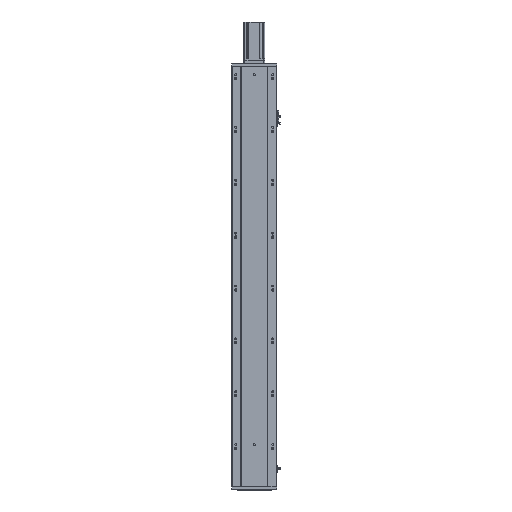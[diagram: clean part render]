
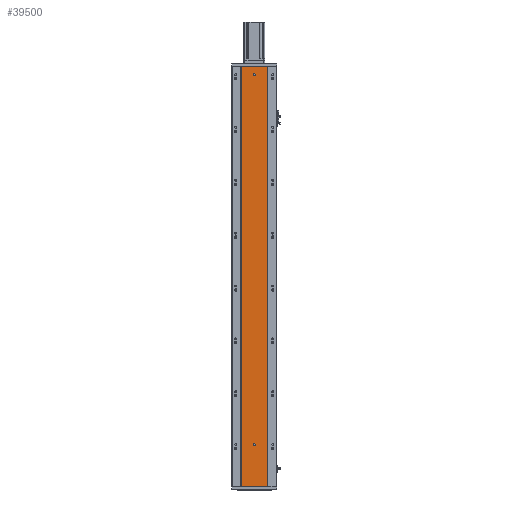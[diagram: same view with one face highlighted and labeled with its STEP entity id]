
A CAD part, front view. The second image highlights one B-rep face of the part: STEP entity #39500.
In plain terms, the highlighted planar face has unit normal (0, -1, 0).
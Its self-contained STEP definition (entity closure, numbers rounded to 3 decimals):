
#2220 = EDGE_LOOP ( 'NONE', ( #9509, #9532, #9431, #9542 ) ) ;
#2242 = EDGE_LOOP ( 'NONE', ( #9483, #9523 ) ) ;
#2290 = EDGE_LOOP ( 'NONE', ( #9445, #9434 ) ) ;
#2430 = LINE ( 'NONE', #4441, #2496 ) ;
#2496 = VECTOR ( 'NONE', #4465, 1000. ) ;
#2520 = CIRCLE ( 'NONE', #22075, 4. ) ;
#2554 = VECTOR ( 'NONE', #4608, 1000. ) ;
#2582 = LINE ( 'NONE', #4583, #2554 ) ;
#2843 = CIRCLE ( 'NONE', #22132, 4. ) ;
#4441 = CARTESIAN_POINT ( 'NONE',  ( 0., 79.476, 1590. ) ) ;
#4465 = DIRECTION ( 'NONE',  ( 1., 0., 0. ) ) ;
#4489 = DIRECTION ( 'NONE',  ( 0., -1., 0. ) ) ;
#4494 = DIRECTION ( 'NONE',  ( 0., 0., -1. ) ) ;
#4507 = CARTESIAN_POINT ( 'NONE',  ( 136.47, 79.476, 1560. ) ) ;
#4534 = CARTESIAN_POINT ( 'NONE',  ( 185.97, 79.476, 1590. ) ) ;
#4536 = CARTESIAN_POINT ( 'NONE',  ( 185.97, 79.476, 530. ) ) ;
#4537 = CARTESIAN_POINT ( 'NONE',  ( 185.97, 79.476, 0. ) ) ;
#4547 = CARTESIAN_POINT ( 'NONE',  ( 185.97, 79.476, 1060. ) ) ;
#4583 = CARTESIAN_POINT ( 'NONE',  ( 0., 79.476, 0. ) ) ;
#4585 = CARTESIAN_POINT ( 'NONE',  ( 86.97, 79.476, 1590. ) ) ;
#4591 = CARTESIAN_POINT ( 'NONE',  ( 86.97, 79.476, 530. ) ) ;
#4592 = CARTESIAN_POINT ( 'NONE',  ( 86.97, 79.476, 0. ) ) ;
#4604 = CARTESIAN_POINT ( 'NONE',  ( 86.97, 79.476, 1060. ) ) ;
#4608 = DIRECTION ( 'NONE',  ( 1., 0., 0. ) ) ;
#4776 = CARTESIAN_POINT ( 'NONE',  ( 136.47, 79.476, 160. ) ) ;
#4777 = DIRECTION ( 'NONE',  ( 0., -1., 0. ) ) ;
#4778 = DIRECTION ( 'NONE',  ( 0., 0., -1. ) ) ;
#8639 = VERTEX_POINT ( 'NONE', #18935 ) ;
#8696 = VERTEX_POINT ( 'NONE', #19042 ) ;
#8733 = VERTEX_POINT ( 'NONE', #19073 ) ;
#8757 = VERTEX_POINT ( 'NONE', #19079 ) ;
#9431 = ORIENTED_EDGE ( 'NONE', *, *, #30990, .F. ) ;
#9434 = ORIENTED_EDGE ( 'NONE', *, *, #41480, .F. ) ;
#9445 = ORIENTED_EDGE ( 'NONE', *, *, #31110, .F. ) ;
#9483 = ORIENTED_EDGE ( 'NONE', *, *, #31006, .F. ) ;
#9509 = ORIENTED_EDGE ( 'NONE', *, *, #31030, .T. ) ;
#9523 = ORIENTED_EDGE ( 'NONE', *, *, #41464, .F. ) ;
#9532 = ORIENTED_EDGE ( 'NONE', *, *, #31021, .F. ) ;
#9542 = ORIENTED_EDGE ( 'NONE', *, *, #31043, .T. ) ;
#11080 = CARTESIAN_POINT ( 'NONE',  ( 185.97, 79.476, 1590. ) ) ;
#11098 = CARTESIAN_POINT ( 'NONE',  ( 86.97, 79.476, 0. ) ) ;
#11127 = CARTESIAN_POINT ( 'NONE',  ( 185.97, 79.476, 0. ) ) ;
#11128 = CARTESIAN_POINT ( 'NONE',  ( 86.97, 79.476, 1590. ) ) ;
#18935 = CARTESIAN_POINT ( 'NONE',  ( 136.47, 79.476, 1556. ) ) ;
#19042 = CARTESIAN_POINT ( 'NONE',  ( 136.47, 79.476, 164. ) ) ;
#19073 = CARTESIAN_POINT ( 'NONE',  ( 136.47, 79.476, 1564. ) ) ;
#19079 = CARTESIAN_POINT ( 'NONE',  ( 136.47, 79.476, 156. ) ) ;
#21706 = CARTESIAN_POINT ( 'NONE',  ( 136.47, 79.476, 1560. ) ) ;
#21709 = DIRECTION ( 'NONE',  ( 0., -1., 0. ) ) ;
#21714 = DIRECTION ( 'NONE',  ( 0., 0., -1. ) ) ;
#21773 = CARTESIAN_POINT ( 'NONE',  ( 136.47, 79.476, 160. ) ) ;
#21776 = DIRECTION ( 'NONE',  ( 0., -1., 0. ) ) ;
#21827 = DIRECTION ( 'NONE',  ( 0., 0., -1. ) ) ;
#22075 = AXIS2_PLACEMENT_3D ( 'NONE', #4507, #4489, #4494 ) ;
#22132 = AXIS2_PLACEMENT_3D ( 'NONE', #4776, #4777, #4778 ) ;
#22399 = AXIS2_PLACEMENT_3D ( 'NONE', #37958, #37919, #37962 ) ;
#22654 = AXIS2_PLACEMENT_3D ( 'NONE', #21706, #21709, #21714 ) ;
#22659 = AXIS2_PLACEMENT_3D ( 'NONE', #21773, #21776, #21827 ) ;
#24369 = VERTEX_POINT ( 'NONE', #11098 ) ;
#24374 = VERTEX_POINT ( 'NONE', #11127 ) ;
#24375 = VERTEX_POINT ( 'NONE', #11080 ) ;
#24400 = VERTEX_POINT ( 'NONE', #11128 ) ;
#25874 = CIRCLE ( 'NONE', #22659, 4. ) ;
#25890 = CIRCLE ( 'NONE', #22654, 4. ) ;
#30990 = EDGE_CURVE ( 'NONE', #24400, #24375, #2430, .T. ) ;
#31006 = EDGE_CURVE ( 'NONE', #8639, #8733, #2520, .T. ) ;
#31021 = EDGE_CURVE ( 'NONE', #24375, #24374, #41660, .T. ) ;
#31030 = EDGE_CURVE ( 'NONE', #24369, #24374, #2582, .T. ) ;
#31043 = EDGE_CURVE ( 'NONE', #24400, #24369, #41644, .T. ) ;
#31110 = EDGE_CURVE ( 'NONE', #8757, #8696, #2843, .T. ) ;
#36451 = FACE_OUTER_BOUND ( 'NONE', #2220, .T. ) ;
#36473 = FACE_BOUND ( 'NONE', #2242, .T. ) ;
#36495 = FACE_BOUND ( 'NONE', #2290, .T. ) ;
#37919 = DIRECTION ( 'NONE',  ( 0., 1., 0. ) ) ;
#37956 = PLANE ( 'NONE',  #22399 ) ;
#37958 = CARTESIAN_POINT ( 'NONE',  ( 0., 79.476, 1590. ) ) ;
#37962 = DIRECTION ( 'NONE',  ( 0., 0., 1. ) ) ;
#39500 = ADVANCED_FACE ( 'NONE', ( #36473, #36495, #36451 ), #37956, .F. ) ;
#41464 = EDGE_CURVE ( 'NONE', #8733, #8639, #25890, .T. ) ;
#41480 = EDGE_CURVE ( 'NONE', #8696, #8757, #25874, .T. ) ;
#41644 = B_SPLINE_CURVE_WITH_KNOTS ( 'NONE', 3,
 ( #4585, #4604, #4591, #4592 ),
 .UNSPECIFIED., .F., .F.,
 ( 4, 4 ),
 ( 0., 1. ),
 .UNSPECIFIED. ) ;
#41660 = B_SPLINE_CURVE_WITH_KNOTS ( 'NONE', 3,
 ( #4534, #4547, #4536, #4537 ),
 .UNSPECIFIED., .F., .F.,
 ( 4, 4 ),
 ( 0., 1. ),
 .UNSPECIFIED. ) ;
